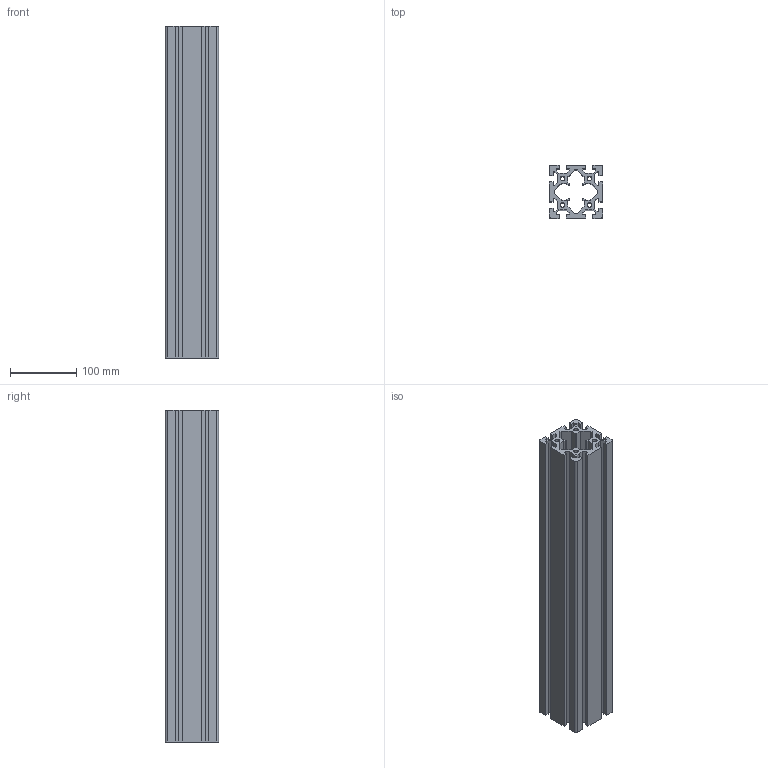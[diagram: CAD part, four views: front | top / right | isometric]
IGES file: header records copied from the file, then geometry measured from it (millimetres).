
Start section: SolidWorks IGES file using analytic representation for surfaces
Global section: file name: C:\Documents and Settings\Administrator\デスクトップ\指定保存後3回目\SolidWorks\SF\SF40・45\Frame\SFF-H84.IGS,41HSolidWorks; native system: 2006 by SolidWorks Corporation; preprocessor: SolidWorks 2006 by SolidWorks Corporation; author: Administrator; date: 061213.113852; units: millimetre
Bounding box: 80 x 80 x 500 mm (x, y, z)
Surface area: 484702.7 mm2 (no closed solid volume)
Topology: 0 solids, 0 shells, 200 faces, 2282 edges, 2876 vertices
Faces by surface type: bspline 138, revolution 62
